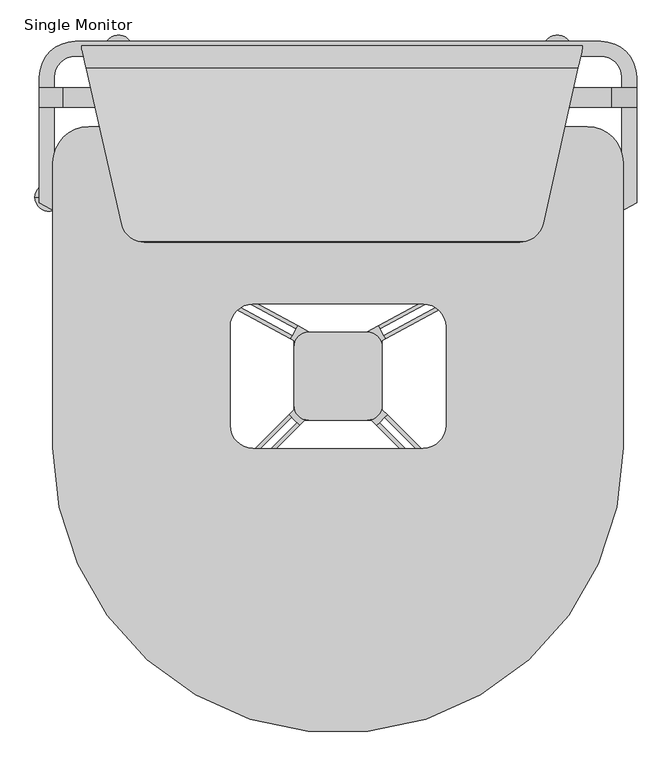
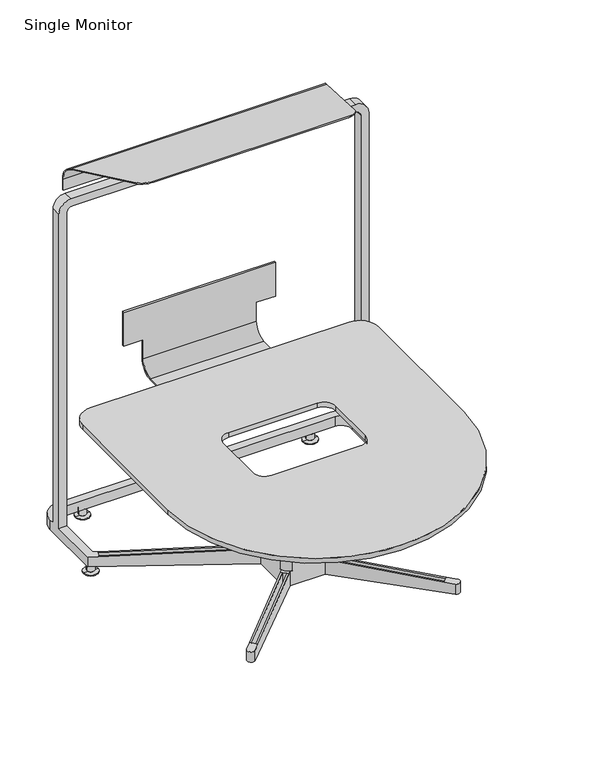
"""IFC4 building model written with IfcOpenShell, lengths in millimetres: furniture geometry, Steelcase - Media Scape - Table - Lounge Height - Small D Shape with Attached Totem : Single Monitor."""

from ifc_helpers import new_model, si_unit, point, frame, frame_2d, origin, place, context, project, spatial, polyline, circle_curve, ellipse_curve, trimmed, segment, composite_curve, outline, extrude, source, transform, mapped, element, save
from ifc_brep_helpers import plane_surface, cylinder_surface, revolved_surface, advanced_brep


def single_monitor_084039e9(model_context):
    return source(origin(), model_context, "Body", "SolidModel", [
        advanced_brep(
        [(1397.2351622, -9.5377223, 1482.7660905), (332.5244847, -9.5377223, 1482.7660905), (332.5244847, -16.6294875, 1513.432464), (341.5808315, -56.6467867, 1548.810563), (1387.7949199, -56.6467867, 1548.810563), (1397.2351622, -14.6177223, 1508.916991), (416.5601746, -387.9581734, 1662.890222), (452.6167787, -425.0561756, 1675.6640886), (1276.5124897, -425.0561756, 1675.6640886), (1313.6061785, -386.9437541, 1662.5409294), (464.9378119, -426.6108286, 1671.1490483), (1264.0410903, -426.6108286, 1671.1490483), (416.5601746, -387.9581734, 1657.8398717), (342.2559242, -59.6298204, 1544.7873536), (1387.124894, -59.6298204, 1544.7873536), (1313.6061785, -386.9437541, 1657.4905792), (332.5244847, -16.6294875, 1497.9457543), (332.5244847, -14.6177223, 1481.6827194), (1397.2351622, -14.6177223, 1481.6827194), (332.5244847, -14.6177223, 1432.8774612), (1397.2351622, -14.6177223, 1432.8774612), (332.5244847, -9.5377223, 1432.8774612), (1397.2351622, -9.5377223, 1432.8774612)],
        [
            (0, 1),
            (1, 2, circle_curve(frame((332.5244847, -79.3877223, 1482.7660905), z_axis=(1.0, 0.0, 0.0), x_axis=(0.0, -1.0, 0.0)), 69.85)),
            (2, 3, ellipse_curve(frame((346.7273507, -79.3877223, 1482.7660905), z_axis=(0.9753352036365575, 0.2207288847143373, 0.0), x_axis=(0.22072888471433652, -0.9753352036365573, 0.0)), 71.616404, 69.85)),
            (3, 4),
            (4, 5, ellipse_curve(frame((1382.6870274, -79.3877223, 1482.7660905), z_axis=(-0.9756907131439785, 0.21915207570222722, 0.0), x_axis=(0.2191520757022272, 0.9756907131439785, 0.0)), 71.5903094, 69.85)),
            (5, 0, circle_curve(frame((1397.2351622, -79.3877223, 1482.7660905), z_axis=(-1.0, 0.0, 0.0), x_axis=(0.0, -1.0, 0.0)), 69.85)),
            (3, 6),
            (6, 7, ellipse_curve(frame((464.9378119, -377.0097919, 1659.1203919), z_axis=(0.0, 0.3255681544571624, 0.9455185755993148), x_axis=(0.0, 0.9455185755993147, -0.3255681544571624)), 52.4590823, 49.6010368)),
            (7, 8),
            (8, 9, ellipse_curve(frame((1264.0410903, -375.8108286, 1658.7075558), z_axis=(0.0, 0.3255681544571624, 0.9455185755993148), x_axis=(0.0, 0.9455185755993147, -0.3255681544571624)), 53.7271306, 50.8)),
            (9, 4),
            (7, 10, ellipse_curve(frame((464.9378119, -377.0097919, 1815.2009188), z_axis=(0.0, -0.9455185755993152, 0.32556815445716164), x_axis=(0.0, -0.3255681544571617, -0.9455185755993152)), 152.3522375, 49.6010368)),
            (10, 11),
            (11, 8, ellipse_curve(frame((1264.0410903, -375.8108286, 1818.6829609), z_axis=(0.0, -0.9455185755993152, 0.32556815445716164), x_axis=(0.0, -0.3255681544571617, -0.9455185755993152)), 156.0349171, 50.8)),
            (10, 12, ellipse_curve(frame((464.9378119, -377.0097919, 1654.0700417), z_axis=(0.0, -0.32556815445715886, -0.9455185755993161), x_axis=(0.0, 0.9455185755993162, -0.32556815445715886)), 52.4590823, 49.6010368)),
            (12, 13),
            (13, 14),
            (14, 15),
            (15, 11, ellipse_curve(frame((1264.0410903, -375.8108286, 1653.6572055), z_axis=(0.0, -0.32556815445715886, -0.9455185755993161), x_axis=(0.0, 0.9455185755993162, -0.32556815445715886)), 53.7271306, 50.8)),
            (13, 16, ellipse_curve(frame((347.1733564, -81.3584885, 1481.6827194), z_axis=(-0.9753352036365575, -0.2207288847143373, 0.0), x_axis=(-0.22072888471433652, 0.9753352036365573, 0.0)), 68.4285423, 66.7407662)),
            (16, 17, circle_curve(frame((332.5244847, -81.3584885, 1481.6827194), z_axis=(-1.0, 0.0, 0.0), x_axis=(0.0, -1.0, 0.0)), 66.7407662)),
            (17, 18),
            (18, 14, ellipse_curve(frame((1382.2443692, -81.3584885, 1481.6827194), z_axis=(0.9756907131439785, -0.21915207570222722, 0.0), x_axis=(-0.2191520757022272, -0.9756907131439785, 0.0)), 68.4036092, 66.7407662)),
            (17, 19),
            (19, 20),
            (20, 18),
            (19, 21),
            (21, 22),
            (22, 20),
            (0, 22),
            (21, 1),
            (12, 6),
            (2, 16),
            (5, 18),
            (9, 15),
        ],
        [
            cylinder_surface(frame((318.3109957, -79.3877223, 1482.7660905), z_axis=(1.0, 0.0, 0.0), x_axis=(0.0, -1.0, 0.0)), 69.85),
            plane_surface(frame((1420.0007044, -56.6467867, 1548.810563), z_axis=(0.0, 0.3255681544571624, 0.9455185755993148), x_axis=(-1.0, 0.0, 0.0))),
            plane_surface(frame((1420.0007044, -425.0561756, 1675.6640886), z_axis=(0.0, -0.9455185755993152, 0.32556815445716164), x_axis=(-1.0, 0.0, 0.0))),
            plane_surface(frame((1420.0007044, -426.6108286, 1671.1490483), z_axis=(0.0, -0.32556815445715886, -0.9455185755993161), x_axis=(-1.0, 0.0, 0.0))),
            revolved_surface(polyline([(332.0692005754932, -148.09925470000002, 1481.6827194), (1397.2351622, -148.09925470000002, 1481.6827194)]), (318.3109957, -81.3584885, 1481.6827194), (-1.0, 0.0, 0.0)),
            plane_surface(frame((1420.0007044, -14.6177223, 1481.6827194), z_axis=(0.0, -1.0, 0.0), x_axis=(-1.0, 0.0, 0.0))),
            plane_surface(frame((1420.0007044, -14.6177223, 1432.8774612), z_axis=(0.0, 0.0, -1.0), x_axis=(-1.0, 0.0, 0.0))),
            plane_surface(frame((1420.0007044, -9.5377223, 1432.8774612), z_axis=(0.0, 1.0, 0.0), x_axis=(-1.0, 0.0, 0.0))),
            plane_surface(frame((416.5601746, -387.9581734, 1815.5842471), z_axis=(-0.9753352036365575, -0.2207288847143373, 0.0), x_axis=(0.0, 0.0, -1.0))),
            plane_surface(frame((332.5244847, -16.6294875, 1815.5842471), z_axis=(-1.0, 0.0, 0.0), x_axis=(0.0, 0.0, -1.0))),
            plane_surface(frame((1397.2351622, -6.3978751, 1815.5842471), z_axis=(1.0, 0.0, 0.0), x_axis=(0.0, 0.0, -1.0))),
            plane_surface(frame((1397.2351622, -14.6177223, 1815.5842471), z_axis=(0.9756907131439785, -0.21915207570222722, 0.0), x_axis=(0.0, 0.0, -1.0))),
            cylinder_surface(frame((1264.0410903, -375.8108286, 1293.1774612), z_axis=(0.0, 0.0, -1.0), x_axis=(1.0, 0.0, 0.0)), 50.8),
            cylinder_surface(frame((464.9378119, -377.0097919, 1293.1774612), z_axis=(0.0, 0.0, -1.0), x_axis=(1.0, 0.0, 0.0)), 49.6010368),
        ],
        [
            (0, [[1, 2, 3, 4, 5, 6]]),
            (1, [[-4, 7, 8, 9, 10, 11]]),
            (2, [[-9, 12, 13, 14]]),
            (3, [[-13, 15, 16, 17, 18, 19]]),
            (4, [[-17, 20, 21, 22, 23]]),
            (5, [[-22, 24, 25, 26]]),
            (6, [[-25, 27, 28, 29]]),
            (7, [[-1, 30, -28, 31]]),
            (8, [[32, -7, -3, 33, -20, -16]]),
            (9, [[-33, -2, -31, -27, -24, -21]]),
            (10, [[34, -26, -29, -30, -6]]),
            (11, [[-34, -5, -11, 35, -18, -23]]),
            (12, [[-35, -10, -14, -19]]),
            (13, [[-32, -15, -12, -8]]),
        ],
    ),
        advanced_brep(
        [(262.1525798, -331.3137623, 0.0), (232.4530391, -331.3137623, 0.0), (291.8521204, -331.3137623, 0.0), (278.1054167, -331.3137623, 34.5059), (246.1997428, -331.3137623, 34.5059), (262.1525798, -331.3137623, 34.5059), (278.1054167, -331.3137623, 9.1059), (246.1997428, -331.3137623, 9.1059), (273.1989954, -331.3137623, 9.1059), (251.1061641, -331.3137623, 9.1059), (273.1989954, -331.3137623, 3.2766), (251.1061641, -331.3137623, 3.2766), (291.8521204, -331.3137623, 3.2766), (232.4530391, -331.3137623, 3.2766)],
        [
            (0, 1),
            (1, 2, circle_curve(frame((262.1525798, -331.3137623, 0.0), z_axis=(0.0, 0.0, -1.0), x_axis=(-1.0, 0.0, 0.0)), 29.6995407)),
            (2, 0),
            (2, 1, circle_curve(frame((262.1525798, -331.3137623, 0.0), z_axis=(0.0, 0.0, -1.0), x_axis=(-1.0, 0.0, 0.0)), 29.6995407)),
            (3, 4, circle_curve(frame((262.1525798, -331.3137623, 34.5059), z_axis=(0.0, 0.0, 1.0), x_axis=(-1.0, 0.0, 0.0)), 15.9528369)),
            (4, 5),
            (5, 3),
            (4, 3, circle_curve(frame((262.1525798, -331.3137623, 34.5059), z_axis=(0.0, 0.0, 1.0), x_axis=(-1.0, 0.0, 0.0)), 15.9528369)),
            (6, 7, circle_curve(frame((262.1525798, -331.3137623, 9.1059), z_axis=(0.0, 0.0, 1.0), x_axis=(-1.0, 0.0, 0.0)), 15.9528369)),
            (7, 4),
            (3, 6),
            (7, 6, circle_curve(frame((262.1525798, -331.3137623, 9.1059), z_axis=(0.0, 0.0, 1.0), x_axis=(-1.0, 0.0, 0.0)), 15.9528369)),
            (8, 9, circle_curve(frame((262.1525798, -331.3137623, 9.1059), z_axis=(0.0, 0.0, 1.0), x_axis=(-1.0, 0.0, 0.0)), 11.0464157)),
            (9, 7),
            (6, 8),
            (9, 8, circle_curve(frame((262.1525798, -331.3137623, 9.1059), z_axis=(0.0, 0.0, 1.0), x_axis=(-1.0, 0.0, 0.0)), 11.0464157)),
            (10, 11, circle_curve(frame((262.1525798, -331.3137623, 3.2766), z_axis=(0.0, 0.0, 1.0), x_axis=(-1.0, 0.0, 0.0)), 11.0464157)),
            (11, 9),
            (8, 10),
            (11, 10, circle_curve(frame((262.1525798, -331.3137623, 3.2766), z_axis=(0.0, 0.0, 1.0), x_axis=(-1.0, 0.0, 0.0)), 11.0464157)),
            (12, 13, circle_curve(frame((262.1525798, -331.3137623, 3.2766), z_axis=(0.0, 0.0, 1.0), x_axis=(-1.0, 0.0, 0.0)), 29.6995407)),
            (13, 11),
            (10, 12),
            (13, 12, circle_curve(frame((262.1525798, -331.3137623, 3.2766), z_axis=(0.0, 0.0, 1.0), x_axis=(-1.0, 0.0, 0.0)), 29.6995407)),
            (1, 13),
            (12, 2),
        ],
        [
            plane_surface(frame((262.1525798, -331.3137623, 0.0), z_axis=(0.0, 0.0, -1.0), x_axis=(-1.0, 0.0, 0.0))),
            plane_surface(frame((262.1525798, -331.3137623, 34.5059), z_axis=(0.0, 0.0, 1.0), x_axis=(-1.0, 0.0, 0.0))),
            cylinder_surface(frame((262.1525798, -331.3137623, 9.1059), z_axis=(0.0, 0.0, -1.0), x_axis=(-1.0, 0.0, 0.0)), 15.9528369),
            plane_surface(frame((262.1525798, -331.3137623, 9.1059), z_axis=(0.0, 0.0, -1.0), x_axis=(-1.0, 0.0, 0.0))),
            cylinder_surface(frame((262.1525798, -331.3137623, 9.1059), z_axis=(0.0, 0.0, -1.0), x_axis=(-1.0, 0.0, 0.0)), 11.0464157),
            plane_surface(frame((262.1525798, -331.3137623, 3.2766), z_axis=(0.0, 0.0, 1.0), x_axis=(-1.0, 0.0, 0.0))),
            cylinder_surface(frame((262.1525798, -331.3137623, 9.1059), z_axis=(0.0, 0.0, -1.0), x_axis=(-1.0, 0.0, 0.0)), 29.6995407),
        ],
        [
            (0, [[1, 2, 3]]),
            (0, [[-3, 4, -1]]),
            (1, [[5, 6, 7]]),
            (1, [[8, -7, -6]]),
            (2, [[9, 10, -5, 11]]),
            (2, [[12, -11, -8, -10]]),
            (3, [[13, 14, -9, 15]]),
            (3, [[16, -15, -12, -14]]),
            (4, [[17, 18, -13, 19]]),
            (4, [[20, -19, -16, -18]]),
            (5, [[21, 22, -17, 23]]),
            (5, [[24, -23, -20, -22]]),
            (6, [[-2, 25, -21, 26]]),
            (6, [[-4, -26, -24, -25]]),
        ],
    ),
        advanced_brep(
        [(1343.693159, -15.9494141, 0.0), (1313.9936183, -15.9494141, 0.0), (1373.3926997, -15.9494141, 0.0), (1359.6459959, -15.9494141, 34.5059), (1327.7403221, -15.9494141, 34.5059), (1343.693159, -15.9494141, 34.5059), (1359.6459959, -15.9494141, 9.1059), (1327.7403221, -15.9494141, 9.1059), (1354.7395747, -15.9494141, 9.1059), (1332.6467433, -15.9494141, 9.1059), (1354.7395747, -15.9494141, 3.2766), (1332.6467433, -15.9494141, 3.2766), (1373.3926997, -15.9494141, 3.2766), (1313.9936183, -15.9494141, 3.2766)],
        [
            (0, 1),
            (1, 2, circle_curve(frame((1343.693159, -15.9494141, 0.0), z_axis=(0.0, 0.0, -1.0), x_axis=(-1.0, 0.0, 0.0)), 29.6995407)),
            (2, 0),
            (2, 1, circle_curve(frame((1343.693159, -15.9494141, 0.0), z_axis=(0.0, 0.0, -1.0), x_axis=(-1.0, 0.0, 0.0)), 29.6995407)),
            (3, 4, circle_curve(frame((1343.693159, -15.9494141, 34.5059), z_axis=(0.0, 0.0, 1.0), x_axis=(-1.0, 0.0, 0.0)), 15.9528369)),
            (4, 5),
            (5, 3),
            (4, 3, circle_curve(frame((1343.693159, -15.9494141, 34.5059), z_axis=(0.0, 0.0, 1.0), x_axis=(-1.0, 0.0, 0.0)), 15.9528369)),
            (6, 7, circle_curve(frame((1343.693159, -15.9494141, 9.1059), z_axis=(0.0, 0.0, 1.0), x_axis=(-1.0, 0.0, 0.0)), 15.9528369)),
            (7, 4),
            (3, 6),
            (7, 6, circle_curve(frame((1343.693159, -15.9494141, 9.1059), z_axis=(0.0, 0.0, 1.0), x_axis=(-1.0, 0.0, 0.0)), 15.9528369)),
            (8, 9, circle_curve(frame((1343.693159, -15.9494141, 9.1059), z_axis=(0.0, 0.0, 1.0), x_axis=(-1.0, 0.0, 0.0)), 11.0464157)),
            (9, 7),
            (6, 8),
            (9, 8, circle_curve(frame((1343.693159, -15.9494141, 9.1059), z_axis=(0.0, 0.0, 1.0), x_axis=(-1.0, 0.0, 0.0)), 11.0464157)),
            (10, 11, circle_curve(frame((1343.693159, -15.9494141, 3.2766), z_axis=(0.0, 0.0, 1.0), x_axis=(-1.0, 0.0, 0.0)), 11.0464157)),
            (11, 9),
            (8, 10),
            (11, 10, circle_curve(frame((1343.693159, -15.9494141, 3.2766), z_axis=(0.0, 0.0, 1.0), x_axis=(-1.0, 0.0, 0.0)), 11.0464157)),
            (12, 13, circle_curve(frame((1343.693159, -15.9494141, 3.2766), z_axis=(0.0, 0.0, 1.0), x_axis=(-1.0, 0.0, 0.0)), 29.6995407)),
            (13, 11),
            (10, 12),
            (13, 12, circle_curve(frame((1343.693159, -15.9494141, 3.2766), z_axis=(0.0, 0.0, 1.0), x_axis=(-1.0, 0.0, 0.0)), 29.6995407)),
            (1, 13),
            (12, 2),
        ],
        [
            plane_surface(frame((1343.693159, -15.9494141, 0.0), z_axis=(0.0, 0.0, -1.0), x_axis=(-1.0, 0.0, 0.0))),
            plane_surface(frame((1343.693159, -15.9494141, 34.5059), z_axis=(0.0, 0.0, 1.0), x_axis=(-1.0, 0.0, 0.0))),
            cylinder_surface(frame((1343.693159, -15.9494141, 9.1059), z_axis=(0.0, 0.0, -1.0), x_axis=(-1.0, 0.0, 0.0)), 15.9528369),
            plane_surface(frame((1343.693159, -15.9494141, 9.1059), z_axis=(0.0, 0.0, -1.0), x_axis=(-1.0, 0.0, 0.0))),
            cylinder_surface(frame((1343.693159, -15.9494141, 9.1059), z_axis=(0.0, 0.0, -1.0), x_axis=(-1.0, 0.0, 0.0)), 11.0464157),
            plane_surface(frame((1343.693159, -15.9494141, 3.2766), z_axis=(0.0, 0.0, 1.0), x_axis=(-1.0, 0.0, 0.0))),
            cylinder_surface(frame((1343.693159, -15.9494141, 9.1059), z_axis=(0.0, 0.0, -1.0), x_axis=(-1.0, 0.0, 0.0)), 29.6995407),
        ],
        [
            (0, [[1, 2, 3]]),
            (0, [[-3, 4, -1]]),
            (1, [[5, 6, 7]]),
            (1, [[8, -7, -6]]),
            (2, [[9, 10, -5, 11]]),
            (2, [[12, -11, -8, -10]]),
            (3, [[13, 14, -9, 15]]),
            (3, [[16, -15, -12, -14]]),
            (4, [[17, 18, -13, 19]]),
            (4, [[20, -19, -16, -18]]),
            (5, [[21, 22, -17, 23]]),
            (5, [[24, -23, -20, -22]]),
            (6, [[-2, 25, -21, 26]]),
            (6, [[-4, -26, -24, -25]]),
        ],
    ),
        advanced_brep(
        [(410.243159, -15.9494141, 0.0), (380.5436183, -15.9494141, 0.0), (439.9426997, -15.9494141, 0.0), (426.1959959, -15.9494141, 34.5059), (394.2903221, -15.9494141, 34.5059), (410.243159, -15.9494141, 34.5059), (426.1959959, -15.9494141, 9.1059), (394.2903221, -15.9494141, 9.1059), (421.2895747, -15.9494141, 9.1059), (399.1967433, -15.9494141, 9.1059), (421.2895747, -15.9494141, 3.2766), (399.1967433, -15.9494141, 3.2766), (439.9426997, -15.9494141, 3.2766), (380.5436183, -15.9494141, 3.2766)],
        [
            (0, 1),
            (1, 2, circle_curve(frame((410.243159, -15.9494141, 0.0), z_axis=(0.0, 0.0, -1.0), x_axis=(-1.0, 0.0, 0.0)), 29.6995407)),
            (2, 0),
            (2, 1, circle_curve(frame((410.243159, -15.9494141, 0.0), z_axis=(0.0, 0.0, -1.0), x_axis=(-1.0, 0.0, 0.0)), 29.6995407)),
            (3, 4, circle_curve(frame((410.243159, -15.9494141, 34.5059), z_axis=(0.0, 0.0, 1.0), x_axis=(-1.0, 0.0, 0.0)), 15.9528369)),
            (4, 5),
            (5, 3),
            (4, 3, circle_curve(frame((410.243159, -15.9494141, 34.5059), z_axis=(0.0, 0.0, 1.0), x_axis=(-1.0, 0.0, 0.0)), 15.9528369)),
            (6, 7, circle_curve(frame((410.243159, -15.9494141, 9.1059), z_axis=(0.0, 0.0, 1.0), x_axis=(-1.0, 0.0, 0.0)), 15.9528369)),
            (7, 4),
            (3, 6),
            (7, 6, circle_curve(frame((410.243159, -15.9494141, 9.1059), z_axis=(0.0, 0.0, 1.0), x_axis=(-1.0, 0.0, 0.0)), 15.9528369)),
            (8, 9, circle_curve(frame((410.243159, -15.9494141, 9.1059), z_axis=(0.0, 0.0, 1.0), x_axis=(-1.0, 0.0, 0.0)), 11.0464157)),
            (9, 7),
            (6, 8),
            (9, 8, circle_curve(frame((410.243159, -15.9494141, 9.1059), z_axis=(0.0, 0.0, 1.0), x_axis=(-1.0, 0.0, 0.0)), 11.0464157)),
            (10, 11, circle_curve(frame((410.243159, -15.9494141, 3.2766), z_axis=(0.0, 0.0, 1.0), x_axis=(-1.0, 0.0, 0.0)), 11.0464157)),
            (11, 9),
            (8, 10),
            (11, 10, circle_curve(frame((410.243159, -15.9494141, 3.2766), z_axis=(0.0, 0.0, 1.0), x_axis=(-1.0, 0.0, 0.0)), 11.0464157)),
            (12, 13, circle_curve(frame((410.243159, -15.9494141, 3.2766), z_axis=(0.0, 0.0, 1.0), x_axis=(-1.0, 0.0, 0.0)), 29.6995407)),
            (13, 11),
            (10, 12),
            (13, 12, circle_curve(frame((410.243159, -15.9494141, 3.2766), z_axis=(0.0, 0.0, 1.0), x_axis=(-1.0, 0.0, 0.0)), 29.6995407)),
            (1, 13),
            (12, 2),
        ],
        [
            plane_surface(frame((410.243159, -15.9494141, 0.0), z_axis=(0.0, 0.0, -1.0), x_axis=(-1.0, 0.0, 0.0))),
            plane_surface(frame((410.243159, -15.9494141, 34.5059), z_axis=(0.0, 0.0, 1.0), x_axis=(-1.0, 0.0, 0.0))),
            cylinder_surface(frame((410.243159, -15.9494141, 9.1059), z_axis=(0.0, 0.0, -1.0), x_axis=(-1.0, 0.0, 0.0)), 15.9528369),
            plane_surface(frame((410.243159, -15.9494141, 9.1059), z_axis=(0.0, 0.0, -1.0), x_axis=(-1.0, 0.0, 0.0))),
            cylinder_surface(frame((410.243159, -15.9494141, 9.1059), z_axis=(0.0, 0.0, -1.0), x_axis=(-1.0, 0.0, 0.0)), 11.0464157),
            plane_surface(frame((410.243159, -15.9494141, 3.2766), z_axis=(0.0, 0.0, 1.0), x_axis=(-1.0, 0.0, 0.0))),
            cylinder_surface(frame((410.243159, -15.9494141, 9.1059), z_axis=(0.0, 0.0, -1.0), x_axis=(-1.0, 0.0, 0.0)), 29.6995407),
        ],
        [
            (0, [[1, 2, 3]]),
            (0, [[-3, 4, -1]]),
            (1, [[5, 6, 7]]),
            (1, [[8, -7, -6]]),
            (2, [[9, 10, -5, 11]]),
            (2, [[12, -11, -8, -10]]),
            (3, [[13, 14, -9, 15]]),
            (3, [[16, -15, -12, -14]]),
            (4, [[17, 18, -13, 19]]),
            (4, [[20, -19, -16, -18]]),
            (5, [[21, 22, -17, 23]]),
            (5, [[24, -23, -20, -22]]),
            (6, [[-2, 25, -21, 26]]),
            (6, [[-4, -26, -24, -25]]),
        ],
    ),
        advanced_brep(
        [(1188.4590235, -39.78148, 690.5752172), (1188.4590235, -39.78148, 837.057), (566.1592173, -39.78148, 837.057), (566.1592173, -39.78148, 690.5752172), (645.5341157, -39.78148, 690.5752172), (645.5341157, -39.78148, 609.0911209), (1109.0841157, -39.78148, 609.0911209), (1109.0841157, -39.78148, 690.5752172), (566.1592173, -31.84398, 690.5752172), (566.1592173, -31.84398, 837.057), (1188.4590235, -31.84398, 837.057), (1188.4590235, -31.84398, 690.5752172), (1109.0841157, -31.84398, 690.5752172), (1109.0841157, -31.84398, 608.8091022), (645.5341157, -31.84398, 608.8091022), (645.5341157, -31.84398, 690.5752172), (1109.0841157, -328.7191894, 555.650386), (1109.0841157, -328.7191894, 547.7002172), (1109.0841157, -92.9528649, 547.7002172), (1109.0841157, -93.2222148, 555.650386), (645.5341157, -328.7191894, 555.650386), (645.5341157, -93.2222148, 555.650386), (645.5341157, -92.9528649, 547.7002172), (645.5341157, -328.7191894, 547.7002172)],
        [
            (0, 1),
            (1, 2),
            (2, 3),
            (3, 4),
            (4, 5),
            (5, 6),
            (6, 7),
            (7, 0),
            (8, 9),
            (9, 10),
            (10, 11),
            (11, 12),
            (12, 13),
            (13, 14),
            (14, 15),
            (15, 8),
            (3, 8),
            (15, 4),
            (11, 0),
            (7, 12),
            (10, 1),
            (9, 2),
            (16, 17),
            (17, 18),
            (18, 13, circle_curve(frame((1109.0841157, -92.9528649, 608.8091022), z_axis=(1.0, 0.0, 0.0), x_axis=(0.0, -1.0, 0.0)), 61.1088849)),
            (6, 19, circle_curve(frame((1109.0841157, -93.2222148, 609.0911209), z_axis=(-1.0, 0.0, 0.0), x_axis=(0.0, -1.0, 0.0)), 53.4407348)),
            (19, 16),
            (20, 21),
            (21, 5, circle_curve(frame((645.5341157, -93.2222148, 609.0911209), z_axis=(1.0, 0.0, 0.0), x_axis=(0.0, -1.0, 0.0)), 53.4407348)),
            (14, 22, circle_curve(frame((645.5341157, -92.9528649, 608.8091022), z_axis=(-1.0, 0.0, 0.0), x_axis=(0.0, -1.0, 0.0)), 61.1088849)),
            (22, 23),
            (23, 20),
            (16, 20),
            (23, 17),
            (22, 18),
            (21, 19),
        ],
        [
            plane_surface(frame((566.1592173, -39.78148, 690.5752172), z_axis=(0.0, -1.0, 0.0), x_axis=(1.0, 0.0, 0.0))),
            plane_surface(frame((566.1592173, -31.84398, 690.5752172), z_axis=(0.0, 1.0, 0.0), x_axis=(-1.0, 0.0, 0.0))),
            plane_surface(frame((566.1592173, -39.78148, 690.5752172), z_axis=(0.0, 0.0, -1.0), x_axis=(0.0, 1.0, 0.0))),
            plane_surface(frame((1188.4590235, -39.78148, 690.5752172), z_axis=(1.0, 0.0, 0.0), x_axis=(0.0, 1.0, 0.0))),
            plane_surface(frame((1188.4590235, -39.78148, 837.057), z_axis=(0.0, 0.0, 1.0), x_axis=(0.0, 1.0, 0.0))),
            plane_surface(frame((566.1592173, -39.78148, 837.057), z_axis=(-1.0, 0.0, 0.0), x_axis=(0.0, 1.0, 0.0))),
            plane_surface(frame((1109.0841157, -328.7191894, 547.7002172), z_axis=(1.0, 0.0, 0.0), x_axis=(0.0, 0.0, -1.0))),
            plane_surface(frame((645.5341157, -328.7191894, 547.7002172), z_axis=(-1.0, 0.0, 0.0), x_axis=(0.0, 0.0, 1.0))),
            plane_surface(frame((1109.0841157, -328.7191894, 555.650386), z_axis=(0.0, -1.0, 0.0), x_axis=(-1.0, 0.0, 0.0))),
            plane_surface(frame((1109.0841157, -328.7191894, 547.7002172), z_axis=(0.0, 0.0, -1.0), x_axis=(-1.0, 0.0, 0.0))),
            cylinder_surface(frame((645.5341157, -92.9528649, 608.8091022), z_axis=(1.0, 0.0, 0.0), x_axis=(0.0, -1.0, 0.0)), 61.1088849),
            revolved_surface(polyline([(645.5341157, -146.6629496, 609.0911209), (1109.0841157, -146.6629496, 609.0911209)]), (645.5341157, -93.2222148, 609.0911209), (-1.0, 0.0, 0.0)),
            plane_surface(frame((1109.0841157, -93.2222148, 555.650386), z_axis=(0.0, 0.0, 1.0), x_axis=(-1.0, 0.0, 0.0))),
        ],
        [
            (0, [[1, 2, 3, 4, 5, 6, 7, 8]]),
            (1, [[9, 10, 11, 12, 13, 14, 15, 16]]),
            (2, [[17, -16, 18, -4]]),
            (2, [[19, -8, 20, -12]]),
            (3, [[-1, -19, -11, 21]]),
            (4, [[-2, -21, -10, 22]]),
            (5, [[-3, -22, -9, -17]]),
            (6, [[23, 24, 25, -13, -20, -7, 26, 27]]),
            (7, [[28, 29, -5, -18, -15, 30, 31, 32]]),
            (8, [[-23, 33, -32, 34]]),
            (9, [[-24, -34, -31, 35]]),
            (10, [[-25, -35, -30, -14]]),
            (11, [[-26, -6, -29, 36]]),
            (12, [[-27, -36, -28, -33]]),
        ],
    ),
        advanced_brep(
        [(795.1398807, -816.1500753, 96.4980935), (496.5337614, -1114.7561946, 78.1912503), (466.7095253, -1144.5804307, 78.1912484), (466.7095253, -1144.5804307, 34.5059), (806.101066, -805.18889, 34.5059), (806.101066, -805.18889, 96.4819), (490.9301304, -1109.1525636, 78.1912503), (789.5362497, -810.5464443, 96.4980935), (789.5362182, -810.5464758, 34.5059), (490.9301304, -1109.1525636, 34.5059), (444.3359542, -1122.0596947, 34.5059), (783.6504257, -782.7382497, 34.5059), (783.6504257, -635.922573, 34.5059), (242.1109957, -343.1132955, 34.5059), (242.1109957, -76.2, 34.5059), (318.3109957, 0.0, 34.5059), (1436.3072357, 0.0, 34.5059), (1512.5072357, -76.2, 34.5059), (1512.5072357, -343.1133005, 34.5059), (970.9678057, -635.922573, 34.5059), (970.9678057, -782.7382497, 34.5059), (1310.2822773, -1122.0596947, 34.5059), (1287.9052194, -1144.5839174, 34.5059), (948.5171654, -805.18889, 34.5059), (778.2998449, -799.3100395, 34.5059), (479.6937256, -1097.9161588, 34.5059), (817.0200649, -617.87151, 34.5059), (937.5981666, -617.87151, 34.5059), (1480.7572357, -324.1923447, 34.5059), (1480.7572357, -76.2, 34.5059), (1436.3072357, -31.75, 34.5059), (318.3109957, -31.75, 34.5059), (273.8609957, -76.2, 34.5059), (273.8609957, -324.1923396, 34.5059), (280.500093, -354.8610796, 34.5059), (780.4308701, -625.161887, 34.5059), (787.9909729, -611.1792131, 34.5059), (288.0601958, -340.8784057, 34.5059), (965.0819818, -810.5464443, 34.5059), (1263.6881011, -1109.1525636, 34.5059), (1274.9246512, -1097.9163041, 34.5059), (976.3183866, -799.3100395, 34.5059), (974.1873708, -625.161887, 34.5059), (1474.1181479, -354.8610796, 34.5059), (1466.5582287, -340.8783065, 34.5059), (966.627268, -611.1792131, 34.5059), (474.0863901, -1092.3092588, 78.1912484), (444.3359542, -1122.0596947, 78.1912484), (479.6935803, -1097.9163041, 78.1912484), (772.6927272, -793.7029217, 96.4980935), (783.6539125, -782.7417364, 96.4819), (778.2997408, -799.3101436, 96.4819), (815.4004257, -805.18889, 96.4819), (783.6504257, -773.43889, 96.4819), (817.0200649, -617.87151, 96.4819), (791.7578337, -604.2122725, 96.4819), (787.9909729, -611.1792131, 96.4819), (780.4308701, -625.161887, 96.4819), (776.6617922, -632.132928, 96.4819), (783.6504257, -635.922573, 96.4819), (783.6504257, -649.62151, 96.4819), (815.4004257, -617.87151, 96.4819), (948.5171654, -805.18889, 96.4819), (959.4783507, -816.1500753, 96.4819), (965.082018, -810.5464805, 96.4819), (976.3184954, -799.3101483, 96.4819), (981.9221627, -793.7065535, 96.4819), (970.9678057, -782.7382497, 96.4819), (970.9678057, -773.43889, 96.4819), (939.2178057, -805.18889, 96.4819), (970.9678057, -635.922573, 96.4819), (977.9610088, -632.1413622, 96.4819), (974.1873708, -625.161887, 96.4819), (966.627268, -611.1792131, 96.4819), (962.8604051, -604.2122686, 96.4819), (937.5981666, -617.87151, 96.4819), (939.2178057, -617.87151, 96.4819), (970.9678057, -649.62151, 96.4819), (273.8634402, -324.1878186, 75.7809), (291.8315564, -333.9031428, 75.7809), (276.7309526, -361.8322363, 75.7809214), (242.1109957, -343.1132955, 75.7809), (783.6504257, -773.43889, 352.68662), (783.6504257, -649.62151, 352.68662), (939.2178057, -805.18889, 352.68662), (815.4004257, -805.18889, 352.68662), (1287.9087062, -1144.5804307, 78.1912484), (1258.0846878, -1114.7564124, 78.1912484), (1280.5351104, -1092.3055543, 78.1912503), (1310.285764, -1122.056208, 78.1912484), (970.9678057, -649.62151, 352.68662), (970.9678057, -773.43889, 352.68662), (1512.5072336, -343.1132966, 75.7809), (1477.8872861, -361.8322324, 75.7809), (1462.7868659, -333.9030396, 75.7809138), (1480.7547891, -324.1878198, 75.7809), (815.4004257, -617.87151, 352.68662), (939.2178057, -617.87151, 352.68662), (280.500093, -354.8610796, 75.7809), (288.0596793, -340.8781265, 75.7809), (1263.6881011, -1109.1525636, 78.1912503), (1274.9245379, -1097.9161908, 78.1912484), (1474.1181479, -354.8610796, 75.7809214), (1466.5580451, -340.8784057, 75.7809), (273.8609957, -139.7127029, 75.7809), (242.1109957, -139.7127029, 75.7809), (1512.5072357, -139.7127029, 75.7809), (1480.7572357, -139.7127029, 75.7809), (273.8609957, -76.2, 75.7809), (318.3109957, -31.75, 75.7809), (1436.3072357, -31.75, 75.7809), (1480.7572357, -76.2, 75.7809), (1480.7572357, -98.4377, 75.7809), (1512.5072357, -98.4377, 75.7809), (1512.5072357, -76.2, 75.7809), (1436.3072357, 0.0, 75.7809), (318.3109957, 0.0, 75.7809), (242.1109957, -76.2, 75.7809), (242.1109957, -98.4377, 75.7809), (273.8609957, -98.4377, 75.7809), (1480.7572357, -139.7127029, 1428.7373554), (1480.7572357, -98.4377, 1428.7373554), (1512.5072357, -98.4377, 1431.4067802), (1512.5072357, -139.7127029, 1431.4067802), (242.1109957, -139.7127029, 1435.087307), (242.1109957, -98.4377, 1435.087307), (273.8609957, -98.4377, 1428.7373554), (273.8609957, -139.7127029, 1428.7373554), (1458.026709, -139.7127029, 1485.887307), (292.9109957, -139.7127029, 1485.887307), (299.2609957, -139.7127029, 1454.1373554), (1455.3572357, -139.7127029, 1454.1373554), (1458.026709, -98.4377, 1485.887307), (1455.3572357, -98.4377, 1454.1373554), (299.2609957, -98.4377, 1454.1373554), (292.9109957, -98.4377, 1485.887307)],
        [
            (0, 1),
            (1, 2),
            (2, 3),
            (3, 4),
            (4, 5),
            (5, 0),
            (6, 7),
            (7, 8),
            (8, 9),
            (9, 6),
            (3, 10, circle_curve(frame((457.2176952, -1131.6396568, 34.5059), z_axis=(0.0, 0.0, -1.0), x_axis=(-1.0, 0.0, 0.0)), 16.053502)),
            (10, 11),
            (11, 12),
            (12, 13),
            (13, 14),
            (14, 15, circle_curve(frame((318.3109957, -76.2, 34.5059), z_axis=(0.0, 0.0, -1.0), x_axis=(1.0, 0.0, 0.0)), 76.2)),
            (15, 16),
            (16, 17, circle_curve(frame((1436.3072357, -76.2, 34.5059), z_axis=(0.0, 0.0, -1.0), x_axis=(1.0, 0.0, 0.0)), 76.2)),
            (17, 18),
            (18, 19),
            (19, 20),
            (20, 21),
            (21, 22, circle_curve(frame((1297.4005363, -1131.6396568, 34.5059), z_axis=(0.0, 0.0, -1.0), x_axis=(1.0, 0.0, 0.0)), 16.053502)),
            (22, 23),
            (23, 4),
            (8, 24),
            (24, 25),
            (25, 9),
            (26, 27),
            (27, 28),
            (28, 29),
            (29, 30, circle_curve(frame((1436.3072357, -76.2, 34.5059), z_axis=(0.0, 0.0, 1.0), x_axis=(1.0, 0.0, 0.0)), 44.45)),
            (30, 31),
            (31, 32, circle_curve(frame((318.3109957, -76.2, 34.5059), z_axis=(0.0, 0.0, 1.0), x_axis=(1.0, 0.0, 0.0)), 44.45)),
            (32, 33),
            (33, 26),
            (34, 35),
            (35, 36),
            (36, 37),
            (37, 34),
            (38, 39),
            (39, 40),
            (40, 41),
            (41, 38),
            (42, 43),
            (43, 44),
            (44, 45),
            (45, 42),
            (0, 7),
            (6, 1),
            (46, 47),
            (47, 2, circle_curve(frame((457.2176952, -1131.6396568, 78.1912484), z_axis=(0.0, 0.0, 1.0), x_axis=(-1.0, 0.0, 0.0)), 16.053502)),
            (6, 48),
            (48, 46),
            (25, 48),
            (46, 49),
            (49, 50),
            (50, 11),
            (10, 47),
            (24, 51),
            (51, 48),
            (51, 49),
            (51, 7),
            (5, 52),
            (52, 53, circle_curve(frame((815.4004257, -773.43889, 96.4819), z_axis=(0.0, 0.0, -1.0), x_axis=(1.0, 0.0, 0.0)), 31.75)),
            (53, 50),
            (54, 55),
            (55, 56),
            (56, 57),
            (57, 58),
            (58, 59),
            (59, 60),
            (60, 61, circle_curve(frame((815.4004257, -649.62151, 96.4819), z_axis=(0.0, 0.0, -1.0), x_axis=(1.0, 0.0, 0.0)), 31.75)),
            (61, 54),
            (62, 63),
            (63, 64),
            (64, 65),
            (65, 66),
            (66, 67),
            (67, 68),
            (68, 69, circle_curve(frame((939.2178057, -773.43889, 96.4819), z_axis=(0.0, 0.0, -1.0), x_axis=(1.0, 0.0, 0.0)), 31.75)),
            (69, 62),
            (70, 71),
            (71, 72),
            (72, 73),
            (73, 74),
            (74, 75),
            (75, 76),
            (76, 77, circle_curve(frame((939.2178057, -649.62151, 96.4819), z_axis=(0.0, 0.0, -1.0), x_axis=(1.0, 0.0, 0.0)), 31.75)),
            (77, 70),
            (54, 26),
            (33, 78),
            (78, 79),
            (79, 55),
            (35, 57),
            (56, 36),
            (58, 80),
            (80, 81),
            (81, 13),
            (12, 59),
            (53, 82),
            (82, 83),
            (83, 60),
            (23, 62),
            (69, 84),
            (84, 85),
            (85, 52),
            (22, 86),
            (86, 87),
            (87, 63),
            (64, 38),
            (41, 65),
            (66, 88),
            (88, 89),
            (89, 21),
            (20, 67),
            (19, 70),
            (77, 90),
            (90, 91),
            (91, 68),
            (18, 92),
            (92, 93),
            (93, 71),
            (72, 42),
            (45, 73),
            (74, 94),
            (94, 95),
            (95, 28),
            (27, 75),
            (61, 96),
            (96, 97),
            (97, 76),
            (34, 98),
            (98, 57),
            (98, 80),
            (56, 99),
            (99, 37),
            (79, 99),
            (64, 100),
            (100, 39),
            (87, 100),
            (86, 89, circle_curve(frame((1297.4005363, -1131.6396568, 78.1912484), z_axis=(0.0, 0.0, 1.0), x_axis=(1.0, 0.0, 0.0)), 16.053502)),
            (88, 101),
            (101, 100),
            (101, 40),
            (101, 65),
            (72, 102),
            (102, 43),
            (93, 102),
            (44, 103),
            (103, 73),
            (103, 94),
            (96, 83, circle_curve(frame((815.4004257, -649.62151, 352.68662), z_axis=(0.0, 0.0, 1.0), x_axis=(1.0, 0.0, 0.0)), 31.75)),
            (82, 85, circle_curve(frame((815.4004257, -773.43889, 352.68662), z_axis=(0.0, 0.0, 1.0), x_axis=(1.0, 0.0, 0.0)), 31.75)),
            (84, 91, circle_curve(frame((939.2178057, -773.43889, 352.68662), z_axis=(0.0, 0.0, 1.0), x_axis=(1.0, 0.0, 0.0)), 31.75)),
            (90, 97, circle_curve(frame((939.2178057, -649.62151, 352.68662), z_axis=(0.0, 0.0, 1.0), x_axis=(1.0, 0.0, 0.0)), 31.75)),
            (98, 99),
            (78, 104),
            (104, 105),
            (105, 81),
            (103, 102),
            (92, 106),
            (106, 107),
            (107, 95),
            (108, 109, circle_curve(frame((318.3109957, -76.2, 75.7809), z_axis=(0.0, 0.0, -1.0), x_axis=(1.0, 0.0, 0.0)), 44.45)),
            (109, 110),
            (110, 111, circle_curve(frame((1436.3072357, -76.2, 75.7809), z_axis=(0.0, 0.0, -1.0), x_axis=(1.0, 0.0, 0.0)), 44.45)),
            (111, 112),
            (112, 113),
            (113, 114),
            (114, 115, circle_curve(frame((1436.3072357, -76.2, 75.7809), z_axis=(0.0, 0.0, 1.0), x_axis=(1.0, 0.0, 0.0)), 76.2)),
            (115, 116),
            (116, 117, circle_curve(frame((318.3109957, -76.2, 75.7809), z_axis=(0.0, 0.0, 1.0), x_axis=(1.0, 0.0, 0.0)), 76.2)),
            (117, 118),
            (118, 119),
            (119, 108),
            (108, 32),
            (31, 109),
            (30, 110),
            (29, 111),
            (107, 120),
            (120, 121),
            (121, 112),
            (17, 114),
            (113, 122),
            (122, 123),
            (123, 106),
            (16, 115),
            (15, 116),
            (14, 117),
            (105, 124),
            (124, 125),
            (125, 118),
            (119, 126),
            (126, 127),
            (127, 104),
            (128, 129),
            (129, 124, circle_curve(frame((292.9109957, -139.7127029, 1435.087307), z_axis=(0.0, -1.0, 0.0), x_axis=(1.0, 0.0, 0.0)), 50.8)),
            (127, 130, circle_curve(frame((299.2609957, -139.7127029, 1428.7373554), z_axis=(0.0, 1.0, 0.0), x_axis=(1.0, 0.0, 0.0)), 25.4)),
            (130, 131),
            (131, 120, circle_curve(frame((1455.3572357, -139.7127029, 1428.7373554), z_axis=(0.0, 1.0, 0.0), x_axis=(1.0, 0.0, 0.0)), 25.4)),
            (123, 128, circle_curve(frame((1458.026709, -139.7127029, 1431.4067802), z_axis=(0.0, -1.0, 0.0), x_axis=(1.0, 0.0, 0.0)), 54.4805267)),
            (132, 122, circle_curve(frame((1458.026709, -98.4377, 1431.4067802), z_axis=(0.0, 1.0, 0.0), x_axis=(1.0, 0.0, 0.0)), 54.4805267)),
            (121, 133, circle_curve(frame((1455.3572357, -98.4377, 1428.7373554), z_axis=(0.0, -1.0, 0.0), x_axis=(1.0, 0.0, 0.0)), 25.4)),
            (133, 134),
            (134, 126, circle_curve(frame((299.2609957, -98.4377, 1428.7373554), z_axis=(0.0, -1.0, 0.0), x_axis=(1.0, 0.0, 0.0)), 25.4)),
            (125, 135, circle_curve(frame((292.9109957, -98.4377, 1435.087307), z_axis=(0.0, 1.0, 0.0), x_axis=(1.0, 0.0, 0.0)), 50.8)),
            (135, 132),
            (128, 132),
            (135, 129),
            (134, 130),
            (133, 131),
        ],
        [
            plane_surface(frame((269.1950793, -1342.0948768, 34.5059), z_axis=(0.7071067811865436, -0.7071067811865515, 0.0), x_axis=(0.7071067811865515, 0.7071067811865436, 0.0))),
            plane_surface(frame((263.5914482, -1336.4912458, 34.5059), z_axis=(-0.7071067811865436, 0.7071067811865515, 0.0), x_axis=(-0.7071067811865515, -0.7071067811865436, 0.0))),
            plane_surface(frame((496.5337614, -1114.7561946, 34.5059), z_axis=(0.0, 0.0, -1.0000000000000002), x_axis=(-0.707106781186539, 0.7071067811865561, 0.0))),
            plane_surface(frame((795.1398807, -816.1500753, 96.4980935), z_axis=(-0.030625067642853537, -0.030625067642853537, 0.9990616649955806), x_axis=(-0.7071067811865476, 0.7071067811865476, 0.0))),
            plane_surface(frame((474.0863901, -1092.3092588, 78.1912484), z_axis=(0.0, 0.0, 1.0000000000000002), x_axis=(-0.7071067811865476, 0.7071067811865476, 0.0))),
            plane_surface(frame((496.5370304, -1114.7598991, 78.1912484), z_axis=(0.7071067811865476, 0.7071067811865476, 0.0), x_axis=(0.0, 0.0, -1.0))),
            plane_surface(frame((474.0863901, -1092.3092588, 78.1912484), z_axis=(-0.7071067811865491, 0.7071067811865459, 0.0), x_axis=(0.0, 0.0, -1.0))),
            cylinder_surface(frame((457.2176952, -1131.6396568, 34.5059), z_axis=(0.0, 0.0, 1.0), x_axis=(-1.0, 0.0, 0.0)), 16.053502),
            plane_surface(frame((479.6937256, -1097.9161588, 75.7808986), z_axis=(0.7071067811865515, -0.7071067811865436, 0.0), x_axis=(0.0, 0.0, -1.0))),
            plane_surface(frame((474.0900945, -1092.3125278, 78.1912503), z_axis=(-0.030625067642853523, -0.030625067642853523, 0.9990616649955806), x_axis=(0.7071067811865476, -0.7071067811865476, 0.0))),
            plane_surface(frame((817.0200649, -617.87151, 96.4819), z_axis=(0.0, 0.0, 1.0), x_axis=(-0.8796485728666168, 0.47562420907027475, 0.0))),
            plane_surface(frame((817.0200649, -617.87151, 96.4819), z_axis=(0.47562420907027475, 0.8796485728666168, 0.0), x_axis=(0.0, 0.0, -1.0))),
            plane_surface(frame((791.7578337, -604.2122725, 96.4819), z_axis=(-0.8796564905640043, 0.475609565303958, 0.0), x_axis=(0.0, 0.0, -1.0))),
            plane_surface(frame((776.65723, -632.1413661, 96.4819), z_axis=(-0.47562420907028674, -0.8796485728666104, 0.0), x_axis=(0.0, 0.0, -1.0))),
            plane_surface(frame((783.6504257, -635.922573, 96.4819), z_axis=(-1.0, 0.0, 0.0), x_axis=(0.0, 0.0, -1.0))),
            plane_surface(frame((772.6891, -793.6995754, 96.4819), z_axis=(-0.7071022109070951, -0.7071113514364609, 0.0), x_axis=(0.0, 0.0, -1.0))),
            plane_surface(frame((806.101066, -805.18889, 96.4819), z_axis=(0.0, -1.0, 0.0), x_axis=(0.0, 0.0, -1.0))),
            plane_surface(frame((948.5171654, -805.18889, 96.4819), z_axis=(-0.7071067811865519, -0.7071067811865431, 0.0), x_axis=(0.0, 0.0, -1.0))),
            plane_surface(frame((959.4783507, -816.1500753, 96.4819), z_axis=(0.7071022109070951, -0.7071113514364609, 0.0), x_axis=(0.0, 0.0, -1.0))),
            plane_surface(frame((981.9291362, -793.6995801, 96.4819), z_axis=(0.7071067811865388, 0.7071067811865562, 0.0), x_axis=(0.0, 0.0, -1.0))),
            plane_surface(frame((970.9678057, -782.7382497, 96.4819), z_axis=(1.0, 0.0, 0.0), x_axis=(0.0, 0.0, -1.0))),
            plane_surface(frame((970.9678057, -635.922573, 96.4819), z_axis=(0.47562420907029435, -0.8796485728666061, 0.0), x_axis=(0.0, 0.0, -1.0))),
            plane_surface(frame((977.9610088, -632.1413622, 96.4819), z_axis=(0.8796564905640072, 0.4756095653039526, 0.0), x_axis=(0.0, 0.0, -1.0))),
            plane_surface(frame((962.8604051, -604.2122686, 96.4819), z_axis=(-0.4756242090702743, 0.879648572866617, 0.0), x_axis=(0.0, 0.0, -1.0))),
            plane_surface(frame((937.5981666, -617.87151, 96.4819), z_axis=(0.0, 1.0, 0.0), x_axis=(0.0, 0.0, -1.0))),
            plane_surface(frame((780.4308701, -625.161887, 34.5058993), z_axis=(0.475609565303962, 0.8796564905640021, 0.0), x_axis=(0.0, 0.0, -1.0))),
            plane_surface(frame((280.500093, -354.8610796, 75.7809214), z_axis=(-0.032055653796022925, 0.017331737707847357, 0.9993358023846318), x_axis=(-0.47560956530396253, -0.8796564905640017, 0.0))),
            plane_surface(frame((787.9909729, -611.1792131, 34.5058993), z_axis=(-0.475609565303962, -0.8796564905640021, 0.0), x_axis=(0.0, 0.0, 1.0))),
            plane_surface(frame((287.0464007, -331.3213778, 75.582652), z_axis=(-0.032055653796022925, 0.017331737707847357, 0.9993358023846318), x_axis=(-0.47560956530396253, -0.8796564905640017, 0.0))),
            plane_surface(frame((1263.6881011, -1109.1525636, 75.7808986), z_axis=(0.7071067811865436, 0.7071067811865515, 0.0), x_axis=(0.0, 0.0, -1.0))),
            plane_surface(frame((1258.0844701, -1114.7561946, 78.1912503), z_axis=(0.030625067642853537, -0.030625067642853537, 0.9990616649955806), x_axis=(0.7071067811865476, 0.7071067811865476, 0.0))),
            plane_surface(frame((1258.0812011, -1114.7598991, 78.1912484), z_axis=(0.0, 0.0, 1.0), x_axis=(0.7071067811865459, -0.7071067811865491, 0.0))),
            cylinder_surface(frame((1297.4005363, -1131.6396568, 34.5059), z_axis=(0.0, 0.0, 1.0), x_axis=(1.0, 0.0, 0.0)), 16.053502),
            plane_surface(frame((1280.5318414, -1092.3092588, 78.1912484), z_axis=(-0.7071067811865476, 0.7071067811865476, 0.0), x_axis=(0.0, 0.0, -1.0))),
            plane_surface(frame((1502.2631881, -1325.254841, 34.5059), z_axis=(-0.7071067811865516, -0.7071067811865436, 0.0), x_axis=(0.7071067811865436, -0.7071067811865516, 0.0))),
            plane_surface(frame((981.9220176, -793.7064084, 96.4980935), z_axis=(0.030625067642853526, -0.030625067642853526, 0.9990616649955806), x_axis=(-0.7071067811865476, -0.7071067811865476, 0.0))),
            plane_surface(frame((1474.1186985, -354.8607819, 75.7808986), z_axis=(-0.475609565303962, 0.8796564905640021, 0.0), x_axis=(0.8790722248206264, 0.4752936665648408, -0.03644110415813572))),
            plane_surface(frame((974.1873708, -625.161887, 96.505077), z_axis=(0.03205565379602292, 0.017331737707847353, 0.9993358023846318), x_axis=(0.47560956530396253, -0.8796564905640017, 0.0))),
            plane_surface(frame((1466.5585958, -340.878108, 75.7808986), z_axis=(0.47560956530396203, -0.8796564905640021, 0.0), x_axis=(-0.8790722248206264, -0.47529366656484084, 0.03644110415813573))),
            plane_surface(frame((962.8581901, -604.208172, 96.505077), z_axis=(0.03205565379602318, 0.01733173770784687, 0.9993358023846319), x_axis=(0.4756095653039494, -0.879656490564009, 0.0))),
            plane_surface(frame((847.1504257, -649.62151, 352.68662), z_axis=(0.0, 0.0, 1.0), x_axis=(0.0, 1.0, 0.0))),
            cylinder_surface(frame((815.4004257, -649.62151, 96.4819), z_axis=(0.0, 0.0, 1.0), x_axis=(1.0, 0.0, 0.0)), 31.75),
            cylinder_surface(frame((815.4004257, -773.43889, 96.4819), z_axis=(0.0, 0.0, 1.0), x_axis=(1.0, 0.0, 0.0)), 31.75),
            cylinder_surface(frame((939.2178057, -773.43889, 96.4819), z_axis=(0.0, 0.0, 1.0), x_axis=(1.0, 0.0, 0.0)), 31.75),
            cylinder_surface(frame((939.2178057, -649.62151, 96.4819), z_axis=(0.0, 0.0, 1.0), x_axis=(1.0, 0.0, 0.0)), 31.75),
            plane_surface(frame((362.7609957, -76.2, 75.7809), z_axis=(0.0, 0.0, 1.0), x_axis=(0.0, -1.0, 0.0))),
            revolved_surface(polyline([(362.76099569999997, -76.2, 34.5059), (362.76099569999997, -76.2, 75.7809)]), (318.3109957, -76.2, 34.5059), (0.0, 0.0, -1.0)),
            plane_surface(frame((318.3109957, -31.75, 75.7809), z_axis=(0.0, -1.0, 0.0), x_axis=(0.0, 0.0, -1.0))),
            revolved_surface(polyline([(1480.7572357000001, -76.2, 34.5059), (1480.7572357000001, -76.2, 75.7809)]), (1436.3072357, -76.2, 34.5059), (0.0, 0.0, -1.0)),
            plane_surface(frame((1480.7572357, -76.2, 75.7809), z_axis=(-1.0, 0.0, 0.0), x_axis=(0.0, 0.0, -1.0))),
            plane_surface(frame((1462.7889672, -333.9073647, 75.7809), z_axis=(-0.879656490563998, -0.4756095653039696, 0.0), x_axis=(0.0, 0.0, -1.0))),
            plane_surface(frame((1512.5072357, -343.1133005, 75.7809), z_axis=(1.0, 0.0, 0.0), x_axis=(0.0, 0.0, -1.0))),
            cylinder_surface(frame((1436.3072357, -76.2, 34.5059), z_axis=(0.0, 0.0, 1.0), x_axis=(1.0, 0.0, 0.0)), 76.2),
            plane_surface(frame((1436.3072357, 0.0, 75.7809), z_axis=(0.0, 1.0, 0.0), x_axis=(0.0, 0.0, -1.0))),
            cylinder_surface(frame((318.3109957, -76.2, 34.5059), z_axis=(0.0, 0.0, 1.0), x_axis=(1.0, 0.0, 0.0)), 76.2),
            plane_surface(frame((242.1109957, -76.2, 75.7809), z_axis=(-1.0, 0.0, 0.0), x_axis=(0.0, 0.0, -1.0))),
            plane_surface(frame((276.7312642, -361.83166, 75.7809), z_axis=(0.879656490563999, -0.47560956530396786, 0.0), x_axis=(0.0, 0.0, -1.0))),
            plane_surface(frame((273.8609957, -324.1923396, 75.7809), z_axis=(1.0, 0.0, 0.0), x_axis=(0.0, 0.0, -1.0))),
            plane_surface(frame((293.0584452, -139.7127029, 1485.887307), z_axis=(0.0, -1.0, 0.0), x_axis=(-1.0, 0.0, 0.0))),
            plane_surface(frame((293.0584452, -98.4377, 1485.887307), z_axis=(0.0, 1.0, 0.0), x_axis=(1.0, 0.0, 0.0))),
            plane_surface(frame((1458.026709, -139.7127029, 1485.887307), z_axis=(0.0, 0.0, 1.0), x_axis=(0.0, 1.0, 0.0))),
            cylinder_surface(frame((292.9109957, -98.4377, 1435.087307), z_axis=(0.0, -1.0, 0.0), x_axis=(1.0, 0.0, 0.0)), 50.8),
            revolved_surface(polyline([(324.6609957, -98.4377, 1428.7373554), (324.6609957, -139.7127029, 1428.7373554)]), (299.2609957, -98.4377, 1428.7373554), (0.0, 1.0, 0.0)),
            plane_surface(frame((299.2609957, -139.7127029, 1454.1373554), z_axis=(0.0, 0.0, -1.0), x_axis=(0.0, 1.0, 0.0))),
            revolved_surface(polyline([(1480.7572357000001, -98.4377, 1428.7373554), (1480.7572357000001, -139.7127029, 1428.7373554)]), (1455.3572357, -98.4377, 1428.7373554), (0.0, 1.0, 0.0)),
            cylinder_surface(frame((1458.026709, -98.4377, 1431.4067802), z_axis=(0.0, -1.0, 0.0), x_axis=(1.0, 0.0, 0.0)), 54.4805267),
        ],
        [
            (0, [[1, 2, 3, 4, 5, 6]]),
            (1, [[7, 8, 9, 10]]),
            (2, [[11, 12, 13, 14, 15, 16, 17, 18, 19, 20, 21, 22, 23, 24, 25, -4], [-9, 26, 27, 28], [29, 30, 31, 32, 33, 34, 35, 36], [37, 38, 39, 40], [41, 42, 43, 44], [45, 46, 47, 48]]),
            (3, [[-1, 49, -7, 50]]),
            (4, [[51, 52, -2, -50, 53, 54]]),
            (5, [[-10, -28, 55, -53]]),
            (6, [[-51, 56, 57, 58, -12, 59]]),
            (7, [[-52, -59, -11, -3]]),
            (8, [[-27, 60, 61, -55]]),
            (9, [[-56, -54, -61, 62]]),
            (10, [[-57, -62, 63, -49, -6, 64, 65, 66]]),
            (10, [[67, 68, 69, 70, 71, 72, 73, 74]]),
            (10, [[75, 76, 77, 78, 79, 80, 81, 82]]),
            (10, [[83, 84, 85, 86, 87, 88, 89, 90]]),
            (11, [[-67, 91, -36, 92, 93, 94]]),
            (12, [[95, -69, 96, -38]]),
            (13, [[-71, 97, 98, 99, -14, 100]]),
            (14, [[-13, -58, -66, 101, 102, 103, -72, -100]]),
            (15, [[-26, -8, -63, -60]]),
            (16, [[-25, 104, -82, 105, 106, 107, -64, -5]]),
            (17, [[-75, -104, -24, 108, 109, 110]]),
            (18, [[111, -44, 112, -77]]),
            (19, [[-79, 113, 114, 115, -22, 116]]),
            (20, [[-21, 117, -90, 118, 119, 120, -80, -116]]),
            (21, [[-83, -117, -20, 121, 122, 123]]),
            (22, [[124, -48, 125, -85]]),
            (23, [[-87, 126, 127, 128, -30, 129]]),
            (24, [[-29, -91, -74, 130, 131, 132, -88, -129]]),
            (25, [[-37, 133, 134, -95]]),
            (26, [[-134, 135, -97, -70]]),
            (27, [[-96, 136, 137, -39]]),
            (28, [[-68, -94, 138, -136]]),
            (29, [[-41, -111, 139, 140]]),
            (30, [[-110, 141, -139, -76]]),
            (31, [[-109, 142, -114, 143, 144, -141]]),
            (32, [[-142, -108, -23, -115]]),
            (33, [[-140, -144, 145, -42]]),
            (34, [[146, -112, -43, -145]]),
            (35, [[-113, -78, -146, -143]]),
            (36, [[147, 148, -45, -124]]),
            (37, [[-147, -84, -123, 149]]),
            (38, [[-47, 150, 151, -125]]),
            (39, [[-126, -86, -151, 152]]),
            (40, [[153, -102, 154, -106, 155, -119, 156, -131]]),
            (41, [[-153, -130, -73, -103]]),
            (42, [[-154, -101, -65, -107]]),
            (43, [[-155, -105, -81, -120]]),
            (44, [[-156, -118, -89, -132]]),
            (45, [[-98, -135, 157, -138, -93, 158, 159, 160]]),
            (45, [[-127, -152, 161, -149, -122, 162, 163, 164]]),
            (45, [[165, 166, 167, 168, 169, 170, 171, 172, 173, 174, 175, 176]]),
            (46, [[-165, 177, -34, 178]]),
            (47, [[-166, -178, -33, 179]]),
            (48, [[-167, -179, -32, 180]]),
            (49, [[-31, -128, -164, 181, 182, 183, -168, -180]]),
            (50, [[-46, -148, -161, -150]]),
            (51, [[-19, 184, -170, 185, 186, 187, -162, -121]]),
            (52, [[-171, -184, -18, 188]]),
            (53, [[-172, -188, -17, 189]]),
            (54, [[-173, -189, -16, 190]]),
            (55, [[-15, -99, -160, 191, 192, 193, -174, -190]]),
            (56, [[-157, -133, -40, -137]]),
            (57, [[-35, -177, -176, 194, 195, 196, -158, -92]]),
            (58, [[197, 198, -191, -159, -196, 199, 200, 201, -181, -163, -187, 202]]),
            (59, [[203, -185, -169, -183, 204, 205, 206, -194, -175, -193, 207, 208]]),
            (60, [[-197, 209, -208, 210]]),
            (61, [[-198, -210, -207, -192]]),
            (62, [[-199, -195, -206, 211]]),
            (63, [[-200, -211, -205, 212]]),
            (64, [[-201, -212, -204, -182]]),
            (65, [[-202, -186, -203, -209]]),
        ],
    ),
        extrude(outline(composite_curve([segment(polyline([(347.0842173, -181.3052223), (1407.5340235, -181.3052223)]), True, "CONTINUOUS"), segment(trimmed(circle_curve(frame_2d((1407.5340235, -257.5052223)), 76.2), [point((1407.5340235, -181.3052223))], [point((1483.7340235, -257.5052223))], False, "CARTESIAN"), True, "CONTINUOUS"), segment(polyline([(1483.7340235, -257.5052223), (1483.7340235, -863.6833531)]), True, "CONTINUOUS"), segment(trimmed(circle_curve(frame_2d((877.3091204, -863.6833531)), 606.4249031), [point((1483.7340235, -863.6833531))], [point((270.8842173, -863.6833531))], False, "CARTESIAN"), True, "CONTINUOUS"), segment(polyline([(270.8842173, -863.6833531), (270.8842173, -257.5052223)]), True, "CONTINUOUS"), segment(trimmed(circle_curve(frame_2d((347.0842173, -257.5052223)), 76.2), [point((270.8842173, -257.5052223))], [point((347.0842173, -181.3052223))], False, "CARTESIAN"), True, "CONTINUOUS")], self_intersect=False), holes=[composite_curve([segment(polyline([(648.328039, -606.3800591), (648.328039, -816.3957161)]), True, "CONTINUOUS"), segment(trimmed(circle_curve(frame_2d((696.243457, -816.3957161)), 47.915418), [point((648.328039, -816.3957161))], [point((696.243457, -864.3111341))], True, "CARTESIAN"), True, "CONTINUOUS"), segment(polyline([(696.243457, -864.3111341), (1058.3747838, -864.3111341)]), True, "CONTINUOUS"), segment(trimmed(circle_curve(frame_2d((1058.3747838, -816.3957161)), 47.915418), [point((1058.3747838, -864.3111341))], [point((1106.2902018, -816.3957161))], True, "CARTESIAN"), True, "CONTINUOUS"), segment(polyline([(1106.2902018, -816.3957161), (1106.2902018, -606.3800591)]), True, "CONTINUOUS"), segment(trimmed(circle_curve(frame_2d((1058.6594047, -606.3800591)), 47.6307971), [point((1106.2902018, -606.3800591))], [point((1058.6594047, -558.749262))], True, "CARTESIAN"), True, "CONTINUOUS"), segment(polyline([(1058.6594047, -558.749262), (695.9588361, -558.749262)]), True, "CONTINUOUS"), segment(trimmed(circle_curve(frame_2d((695.9588361, -606.3800591)), 47.6307971), [point((695.9588361, -558.749262))], [point((648.328039, -606.3800591))], True, "CARTESIAN"), True, "CONTINUOUS")], self_intersect=False)]), frame((0.0, 0.0, 566.7273262), z_axis=(0.0, 0.0, 1.0), x_axis=(1.0, 0.0, 0.0)), (0.0, 0.0, 1.0), 20.0660138),
    ])


if __name__ == "__main__":
    model = new_model("IFC4")
    model_context = context("Model", 3, world=origin())
    ifc_project = project(units=[si_unit("LENGTHUNIT", "METRE", prefix="MILLI")], contexts=[model_context])
    site = spatial("IfcSite", under=ifc_project)
    building = spatial("IfcBuilding", under=site)
    placement = place(None, origin())
    single_monitor_shape = single_monitor_084039e9(model_context)
    element("IfcFurniture", 1, ObjectType="Steelcase - Media Scape - Table - Lounge Height - Small D Shape with Attached Totem : Single Monitor", at=placement, inside=building, context=model_context, shape_type="MappedRepresentation", body=[
        mapped(single_monitor_shape, transform((0.0, 0.0, 0.0), x_axis=(1.0, 0.0, 0.0), y_axis=(0.0, 1.0, 0.0), z_axis=(0.0, 0.0, 1.0))),
    ])
    save(model, "model.ifc")
